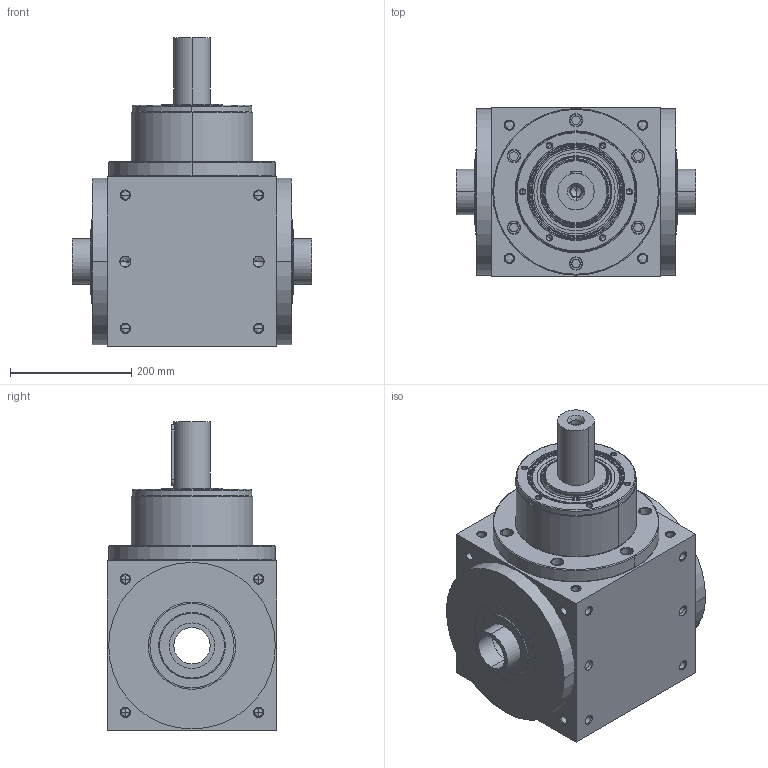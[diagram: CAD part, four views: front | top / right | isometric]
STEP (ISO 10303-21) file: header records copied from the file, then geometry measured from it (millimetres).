
FILE_DESCRIPTION((''),'2;1');
FILE_NAME('ATB280C-1_ASM','2014-07-18T',('D00080'),(''),'PRO/ENGINEER BY PARAMETRIC TECHNOLOGY CORPORATION, 2008170','PRO/ENGINEER BY PARAMETRIC TECHNOLOGY CORPORATION, 2008170','');
FILE_SCHEMA(('CONFIG_CONTROL_DESIGN'));
Length unit declared in the file: millimetre
Products named in the file (6): ATB280C-1; P1820A00001; 22400071010; P0904A01001; P1208A00001; ATB280C-1_ASM
Assembly tree (5 placements, depth 2):
  ATB280C-1_ASM
    ATB280C-1
    P1820A00001
    22400071010
    P0904A01001
    P1208A00001
Bounding box: 395 x 280 x 510 mm (x, y, z)
Volume: 26855945 mm3; surface area: 1049471.9 mm2
Topology: 6 solids, 38 shells, 614 faces, 1503 edges, 894 vertices
Faces by surface type: cylinder 270, cone 224, plane 80, torus 40
Entity records: 18516 total; most frequent: CARTESIAN_POINT 3946, DIRECTION 3287, ORIENTED_EDGE 2742, EDGE_CURVE 1435, AXIS2_PLACEMENT_3D 1387, VERTEX_POINT 894, CIRCLE 754, EDGE_LOOP 733
